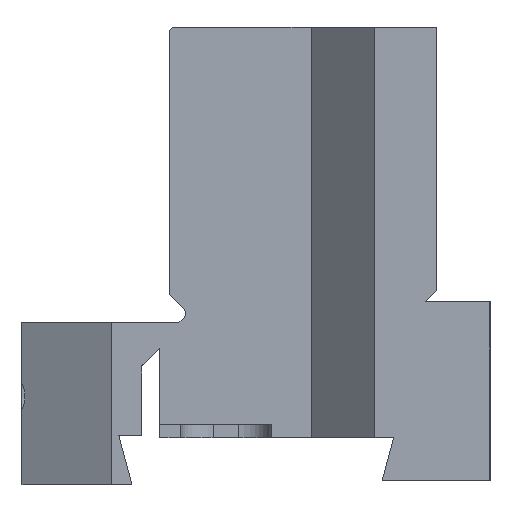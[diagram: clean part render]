
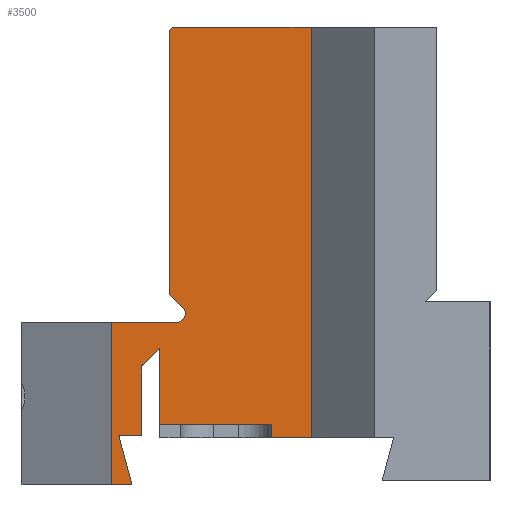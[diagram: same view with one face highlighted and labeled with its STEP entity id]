
A CAD part, left-side view. The second image highlights one B-rep face of the part: STEP entity #3500.
In plain terms, the highlighted planar face has unit normal (-1, 0, 0).
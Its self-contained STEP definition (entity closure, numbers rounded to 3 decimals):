
#3101=AXIS2_PLACEMENT_3D('Circle Axis2P3D',#3099,#3100,$) ;
#3478=AXIS2_PLACEMENT_3D('Plane Axis2P3D',#3475,#3476,#3477) ;
#712=CARTESIAN_POINT('Vertex',(-49.,30.878,-12.692)) ;
#715=CARTESIAN_POINT('Line Origine',(-49.,27.678,-12.692)) ;
#719=CARTESIAN_POINT('Vertex',(-49.,24.478,-12.692)) ;
#849=CARTESIAN_POINT('Vertex',(-49.,28.926,-28.092)) ;
#852=CARTESIAN_POINT('Line Origine',(-49.,29.902,-28.092)) ;
#856=CARTESIAN_POINT('Vertex',(-49.,30.878,-28.092)) ;
#980=CARTESIAN_POINT('Line Origine',(-49.,30.878,-20.392)) ;
#1448=CARTESIAN_POINT('Vertex',(-49.,30.185,-23.392)) ;
#1451=CARTESIAN_POINT('Line Origine',(-49.,29.555,-25.742)) ;
#1532=CARTESIAN_POINT('Line Origine',(-49.,29.082,-23.392)) ;
#1536=CARTESIAN_POINT('Vertex',(-49.,27.978,-23.392)) ;
#1585=CARTESIAN_POINT('Vertex',(-49.,27.978,-16.792)) ;
#1588=CARTESIAN_POINT('Line Origine',(-49.,27.978,-20.092)) ;
#1608=CARTESIAN_POINT('Vertex',(-49.,26.3,-15.114)) ;
#1611=CARTESIAN_POINT('Line Origine',(-49.,27.139,-15.953)) ;
#1871=CARTESIAN_POINT('Line Origine',(-49.,24.212,-12.427)) ;
#1875=CARTESIAN_POINT('Vertex',(-49.,23.946,-12.161)) ;
#1959=CARTESIAN_POINT('Vertex',(-49.,26.3,-22.342)) ;
#1962=CARTESIAN_POINT('Line Origine',(-49.,26.3,-18.728)) ;
#3099=CARTESIAN_POINT('Axis2P3D Location',(-49.,24.3,-11.807)) ;
#3103=CARTESIAN_POINT('Vertex',(-49.,23.946,-11.454)) ;
#3123=CARTESIAN_POINT('Line Origine',(-49.,24.673,-10.727)) ;
#3127=CARTESIAN_POINT('Vertex',(-49.,25.4,-10.)) ;
#3154=CARTESIAN_POINT('Line Origine',(-49.,25.4,2.554)) ;
#3158=CARTESIAN_POINT('Vertex',(-49.,25.4,15.108)) ;
#3192=CARTESIAN_POINT('Line Origine',(-49.,25.25,15.258)) ;
#3196=CARTESIAN_POINT('Vertex',(-49.,25.1,15.408)) ;
#3216=CARTESIAN_POINT('Line Origine',(-49.,18.5,15.408)) ;
#3220=CARTESIAN_POINT('Vertex',(-49.,11.9,15.408)) ;
#3260=CARTESIAN_POINT('Vertex',(-49.,11.9,-23.592)) ;
#3263=CARTESIAN_POINT('Line Origine',(-49.,11.9,-4.092)) ;
#3299=CARTESIAN_POINT('Line Origine',(-49.,13.805,-23.592)) ;
#3303=CARTESIAN_POINT('Vertex',(-49.,15.71,-23.592)) ;
#3339=CARTESIAN_POINT('Line Origine',(-49.,15.71,-22.967)) ;
#3343=CARTESIAN_POINT('Vertex',(-49.,15.71,-22.342)) ;
#3371=CARTESIAN_POINT('Line Origine',(-49.,21.005,-22.342)) ;
#3475=CARTESIAN_POINT('Axis2P3D Location',(-49.,39.378,-20.392)) ;
#716=DIRECTION('Vector Direction',(0.,1.,0.)) ;
#853=DIRECTION('Vector Direction',(0.,-1.,0.)) ;
#981=DIRECTION('Vector Direction',(0.,0.,1.)) ;
#1452=DIRECTION('Vector Direction',(0.,0.259,0.966)) ;
#1533=DIRECTION('Vector Direction',(0.,-1.,0.)) ;
#1589=DIRECTION('Vector Direction',(0.,0.,1.)) ;
#1612=DIRECTION('Vector Direction',(0.,-0.707,0.707)) ;
#1872=DIRECTION('Vector Direction',(0.,-0.707,0.707)) ;
#1963=DIRECTION('Vector Direction',(0.,0.,-1.)) ;
#3100=DIRECTION('Axis2P3D Direction',(1.,-0.,0.)) ;
#3124=DIRECTION('Vector Direction',(0.,0.707,0.707)) ;
#3155=DIRECTION('Vector Direction',(0.,0.,-1.)) ;
#3193=DIRECTION('Vector Direction',(0.,0.707,-0.707)) ;
#3217=DIRECTION('Vector Direction',(0.,-1.,0.)) ;
#3264=DIRECTION('Vector Direction',(0.,0.,-1.)) ;
#3300=DIRECTION('Vector Direction',(0.,-1.,0.)) ;
#3340=DIRECTION('Vector Direction',(0.,0.,-1.)) ;
#3372=DIRECTION('Vector Direction',(0.,1.,0.)) ;
#3476=DIRECTION('Axis2P3D Direction',(-1.,0.,0.)) ;
#3477=DIRECTION('Axis2P3D XDirection',(0.,0.,1.)) ;
#717=VECTOR('Line Direction',#716,1.) ;
#854=VECTOR('Line Direction',#853,1.) ;
#982=VECTOR('Line Direction',#981,1.) ;
#1453=VECTOR('Line Direction',#1452,1.) ;
#1534=VECTOR('Line Direction',#1533,1.) ;
#1590=VECTOR('Line Direction',#1589,1.) ;
#1613=VECTOR('Line Direction',#1612,1.) ;
#1873=VECTOR('Line Direction',#1872,1.) ;
#1964=VECTOR('Line Direction',#1963,1.) ;
#3125=VECTOR('Line Direction',#3124,1.) ;
#3156=VECTOR('Line Direction',#3155,1.) ;
#3194=VECTOR('Line Direction',#3193,1.) ;
#3218=VECTOR('Line Direction',#3217,1.) ;
#3265=VECTOR('Line Direction',#3264,1.) ;
#3301=VECTOR('Line Direction',#3300,1.) ;
#3341=VECTOR('Line Direction',#3340,1.) ;
#3373=VECTOR('Line Direction',#3372,1.) ;
#3481=ORIENTED_EDGE('',*,*,#721,.T.) ;
#3482=ORIENTED_EDGE('',*,*,#984,.F.) ;
#3483=ORIENTED_EDGE('',*,*,#858,.T.) ;
#3484=ORIENTED_EDGE('',*,*,#1455,.T.) ;
#3485=ORIENTED_EDGE('',*,*,#1538,.T.) ;
#3486=ORIENTED_EDGE('',*,*,#1592,.T.) ;
#3487=ORIENTED_EDGE('',*,*,#1615,.T.) ;
#3488=ORIENTED_EDGE('',*,*,#1966,.T.) ;
#3489=ORIENTED_EDGE('',*,*,#3375,.F.) ;
#3490=ORIENTED_EDGE('',*,*,#3345,.T.) ;
#3491=ORIENTED_EDGE('',*,*,#3305,.T.) ;
#3492=ORIENTED_EDGE('',*,*,#3267,.F.) ;
#3493=ORIENTED_EDGE('',*,*,#3222,.T.) ;
#3494=ORIENTED_EDGE('',*,*,#3198,.F.) ;
#3495=ORIENTED_EDGE('',*,*,#3160,.T.) ;
#3496=ORIENTED_EDGE('',*,*,#3129,.T.) ;
#3497=ORIENTED_EDGE('',*,*,#3105,.T.) ;
#3498=ORIENTED_EDGE('',*,*,#1877,.T.) ;
#3500=ADVANCED_FACE('NO_CUT',(#3499),#3479,.T.) ;
#3102=CIRCLE('generated circle',#3101,0.5) ;
#721=EDGE_CURVE('',#720,#713,#718,.T.) ;
#858=EDGE_CURVE('',#857,#850,#855,.T.) ;
#984=EDGE_CURVE('',#857,#713,#983,.T.) ;
#1455=EDGE_CURVE('',#850,#1449,#1454,.T.) ;
#1538=EDGE_CURVE('',#1449,#1537,#1535,.T.) ;
#1592=EDGE_CURVE('',#1537,#1586,#1591,.T.) ;
#1615=EDGE_CURVE('',#1586,#1609,#1614,.T.) ;
#1877=EDGE_CURVE('',#1876,#720,#1874,.F.) ;
#1966=EDGE_CURVE('',#1609,#1960,#1965,.T.) ;
#3105=EDGE_CURVE('',#3104,#1876,#3102,.T.) ;
#3129=EDGE_CURVE('',#3128,#3104,#3126,.F.) ;
#3160=EDGE_CURVE('',#3159,#3128,#3157,.T.) ;
#3198=EDGE_CURVE('',#3159,#3197,#3195,.F.) ;
#3222=EDGE_CURVE('',#3221,#3197,#3219,.F.) ;
#3267=EDGE_CURVE('',#3221,#3261,#3266,.T.) ;
#3305=EDGE_CURVE('',#3304,#3261,#3302,.T.) ;
#3345=EDGE_CURVE('',#3344,#3304,#3342,.T.) ;
#3375=EDGE_CURVE('',#3344,#1960,#3374,.T.) ;
#3480=EDGE_LOOP('',(#3481,#3482,#3483,#3484,#3485,#3486,#3487,#3488,#3489,#3490,#3491,#3492,#3493,#3494,#3495,#3496,#3497,#3498)) ;
#3499=FACE_OUTER_BOUND('',#3480,.T.) ;
#718=LINE('Line',#715,#717) ;
#855=LINE('Line',#852,#854) ;
#983=LINE('Line',#980,#982) ;
#1454=LINE('Line',#1451,#1453) ;
#1535=LINE('Line',#1532,#1534) ;
#1591=LINE('Line',#1588,#1590) ;
#1614=LINE('Line',#1611,#1613) ;
#1874=LINE('Line',#1871,#1873) ;
#1965=LINE('Line',#1962,#1964) ;
#3126=LINE('Line',#3123,#3125) ;
#3157=LINE('Line',#3154,#3156) ;
#3195=LINE('Line',#3192,#3194) ;
#3219=LINE('Line',#3216,#3218) ;
#3266=LINE('Line',#3263,#3265) ;
#3302=LINE('Line',#3299,#3301) ;
#3342=LINE('Line',#3339,#3341) ;
#3374=LINE('Line',#3371,#3373) ;
#3479=PLANE('Plane',#3478) ;
#713=VERTEX_POINT('',#712) ;
#720=VERTEX_POINT('',#719) ;
#850=VERTEX_POINT('',#849) ;
#857=VERTEX_POINT('',#856) ;
#1449=VERTEX_POINT('',#1448) ;
#1537=VERTEX_POINT('',#1536) ;
#1586=VERTEX_POINT('',#1585) ;
#1609=VERTEX_POINT('',#1608) ;
#1876=VERTEX_POINT('',#1875) ;
#1960=VERTEX_POINT('',#1959) ;
#3104=VERTEX_POINT('',#3103) ;
#3128=VERTEX_POINT('',#3127) ;
#3159=VERTEX_POINT('',#3158) ;
#3197=VERTEX_POINT('',#3196) ;
#3221=VERTEX_POINT('',#3220) ;
#3261=VERTEX_POINT('',#3260) ;
#3304=VERTEX_POINT('',#3303) ;
#3344=VERTEX_POINT('',#3343) ;
